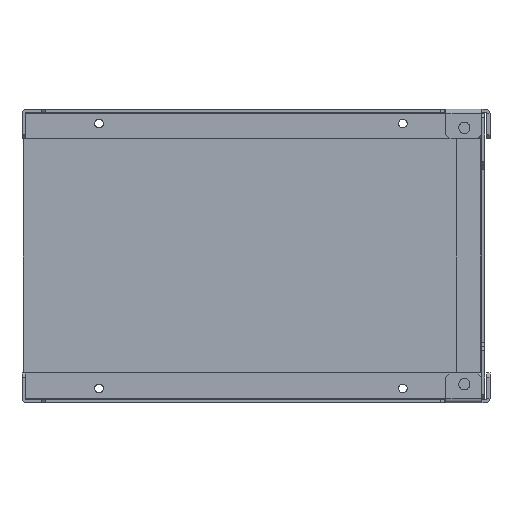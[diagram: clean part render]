
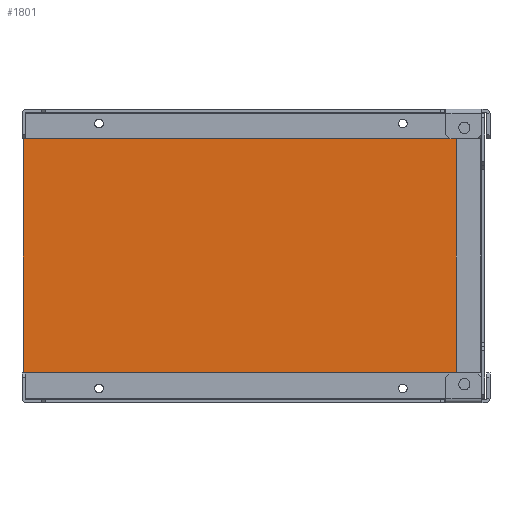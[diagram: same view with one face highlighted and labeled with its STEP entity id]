
A CAD part, front view. The second image highlights one B-rep face of the part: STEP entity #1801.
In plain terms, the highlighted planar face has unit normal (0, -1, 0) as drawn and (0, 0, 1) by its records, which use the part's own axes.
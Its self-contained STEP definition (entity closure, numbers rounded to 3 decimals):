
#366=CARTESIAN_POINT(' ',(71.25,-64.5,0.));
#367=VERTEX_POINT(' ',#366);
#381=CARTESIAN_POINT(' ',(74.,-64.5,0.));
#386=DIRECTION(' ',(0.,-0.,1.));
#391=DIRECTION(' ',(-1.,0.,0.));
#396=AXIS2_PLACEMENT_3D(' ',#381,#386,#391);
#401=CIRCLE('',#396,2.75);
#406=CARTESIAN_POINT(' ',(76.75,-64.5,0.));
#407=VERTEX_POINT(' ',#406);
#411=EDGE_CURVE(' ',#367,#407,#401,.T.);
#1146=CARTESIAN_POINT(' ',(74.,-64.5,0.));
#1151=DIRECTION(' ',(0.,0.,1.));
#1156=DIRECTION(' ',(1.,0.,0.));
#1161=AXIS2_PLACEMENT_3D(' ',#1146,#1151,#1156);
#1166=CIRCLE('',#1161,2.75);
#1171=EDGE_CURVE(' ',#407,#367,#1166,.T.);
#1196=DIRECTION(' ',(-0.,0.,1.));
#1201=CARTESIAN_POINT(' ',(-111.,-71.5,0.));
#1206=DIRECTION(' ',(1.,0.,0.));
#1211=AXIS2_PLACEMENT_3D(' ',#1201,#1196,#1206);
#1216=PLANE('NONE',#1211);
#1221=CARTESIAN_POINT(' ',(-111.,66.5,0.));
#1226=DIRECTION(' ',(0.,-1.,0.));
#1231=VECTOR(' ',#1226,1.);
#1236=LINE('',#1221,#1231);
#1241=CARTESIAN_POINT(' ',(-111.,66.5,0.));
#1242=VERTEX_POINT(' ',#1241);
#1246=CARTESIAN_POINT(' ',(-111.,-66.5,0.));
#1247=VERTEX_POINT(' ',#1246);
#1251=EDGE_CURVE(' ',#1242,#1247,#1236,.T.);
#1256=ORIENTED_EDGE(' ',*,*,#1251,.T.);
#1261=CARTESIAN_POINT(' ',(-111.,-66.5,0.));
#1266=DIRECTION(' ',(0.707,-0.707,0.));
#1271=VECTOR(' ',#1266,1.);
#1276=LINE('',#1261,#1271);
#1281=CARTESIAN_POINT(' ',(-106.,-71.5,0.));
#1282=VERTEX_POINT(' ',#1281);
#1286=EDGE_CURVE(' ',#1247,#1282,#1276,.T.);
#1291=ORIENTED_EDGE(' ',*,*,#1286,.T.);
#1296=CARTESIAN_POINT(' ',(-106.,-71.5,0.));
#1301=DIRECTION(' ',(1.,0.,0.));
#1306=VECTOR(' ',#1301,1.);
#1311=LINE('',#1296,#1306);
#1316=CARTESIAN_POINT(' ',(106.,-71.5,0.));
#1317=VERTEX_POINT(' ',#1316);
#1321=EDGE_CURVE(' ',#1282,#1317,#1311,.T.);
#1326=ORIENTED_EDGE(' ',*,*,#1321,.T.);
#1331=CARTESIAN_POINT(' ',(106.,-71.5,0.));
#1336=DIRECTION(' ',(0.707,0.707,0.));
#1341=VECTOR(' ',#1336,1.);
#1346=LINE('',#1331,#1341);
#1351=CARTESIAN_POINT(' ',(111.,-66.5,0.));
#1352=VERTEX_POINT(' ',#1351);
#1356=EDGE_CURVE(' ',#1317,#1352,#1346,.T.);
#1361=ORIENTED_EDGE(' ',*,*,#1356,.T.);
#1366=CARTESIAN_POINT(' ',(111.,-66.5,0.));
#1371=DIRECTION(' ',(0.,1.,0.));
#1376=VECTOR(' ',#1371,1.);
#1381=LINE('',#1366,#1376);
#1386=CARTESIAN_POINT(' ',(111.,66.5,0.));
#1387=VERTEX_POINT(' ',#1386);
#1391=EDGE_CURVE(' ',#1352,#1387,#1381,.T.);
#1396=ORIENTED_EDGE(' ',*,*,#1391,.T.);
#1401=CARTESIAN_POINT(' ',(111.,66.5,0.));
#1406=DIRECTION(' ',(-0.707,0.707,0.));
#1411=VECTOR(' ',#1406,1.);
#1416=LINE('',#1401,#1411);
#1421=CARTESIAN_POINT(' ',(106.,71.5,0.));
#1422=VERTEX_POINT(' ',#1421);
#1426=EDGE_CURVE(' ',#1387,#1422,#1416,.T.);
#1431=ORIENTED_EDGE(' ',*,*,#1426,.T.);
#1436=CARTESIAN_POINT(' ',(106.,71.5,0.));
#1441=DIRECTION(' ',(-1.,0.,0.));
#1446=VECTOR(' ',#1441,1.);
#1451=LINE('',#1436,#1446);
#1456=CARTESIAN_POINT(' ',(-106.,71.5,0.));
#1457=VERTEX_POINT(' ',#1456);
#1461=EDGE_CURVE(' ',#1422,#1457,#1451,.T.);
#1466=ORIENTED_EDGE(' ',*,*,#1461,.T.);
#1471=CARTESIAN_POINT(' ',(-106.,71.5,0.));
#1476=DIRECTION(' ',(-0.707,-0.707,0.));
#1481=VECTOR(' ',#1476,1.);
#1486=LINE('',#1471,#1481);
#1491=EDGE_CURVE(' ',#1457,#1242,#1486,.T.);
#1496=ORIENTED_EDGE(' ',*,*,#1491,.T.);
#1501=EDGE_LOOP(' ',(#1256,#1291,#1326,#1361,#1396,#1431,#1466,#1496));
#1506=FACE_OUTER_BOUND(' ',#1501,.T.);
#1511=ORIENTED_EDGE(' ',*,*,#1171,.F.);
#1516=ORIENTED_EDGE(' ',*,*,#411,.F.);
#1521=EDGE_LOOP(' ',(#1511,#1516));
#1526=FACE_BOUND(' ',#1521,.T.);
#1531=CARTESIAN_POINT(' ',(74.,64.5,0.));
#1536=DIRECTION(' ',(0.,0.,1.));
#1541=DIRECTION(' ',(1.,0.,0.));
#1546=AXIS2_PLACEMENT_3D(' ',#1531,#1536,#1541);
#1551=CIRCLE('',#1546,2.75);
#1556=CARTESIAN_POINT(' ',(76.75,64.5,0.));
#1557=VERTEX_POINT(' ',#1556);
#1561=CARTESIAN_POINT(' ',(71.25,64.5,0.));
#1562=VERTEX_POINT(' ',#1561);
#1566=EDGE_CURVE(' ',#1557,#1562,#1551,.T.);
#1571=ORIENTED_EDGE(' ',*,*,#1566,.F.);
#1576=CARTESIAN_POINT(' ',(74.,64.5,0.));
#1581=DIRECTION(' ',(0.,-0.,1.));
#1586=DIRECTION(' ',(-1.,0.,0.));
#1591=AXIS2_PLACEMENT_3D(' ',#1576,#1581,#1586);
#1596=CIRCLE('',#1591,2.75);
#1601=EDGE_CURVE(' ',#1562,#1557,#1596,.T.);
#1606=ORIENTED_EDGE(' ',*,*,#1601,.F.);
#1611=EDGE_LOOP(' ',(#1571,#1606));
#1616=FACE_BOUND(' ',#1611,.T.);
#1621=CARTESIAN_POINT(' ',(-74.,64.5,0.));
#1626=DIRECTION(' ',(0.,0.,1.));
#1631=DIRECTION(' ',(1.,0.,0.));
#1636=AXIS2_PLACEMENT_3D(' ',#1621,#1626,#1631);
#1641=CIRCLE('',#1636,2.75);
#1646=CARTESIAN_POINT(' ',(-71.25,64.5,0.));
#1647=VERTEX_POINT(' ',#1646);
#1651=CARTESIAN_POINT(' ',(-76.75,64.5,0.));
#1652=VERTEX_POINT(' ',#1651);
#1656=EDGE_CURVE(' ',#1647,#1652,#1641,.T.);
#1661=ORIENTED_EDGE(' ',*,*,#1656,.F.);
#1666=CARTESIAN_POINT(' ',(-74.,64.5,0.));
#1671=DIRECTION(' ',(0.,-0.,1.));
#1676=DIRECTION(' ',(-1.,0.,0.));
#1681=AXIS2_PLACEMENT_3D(' ',#1666,#1671,#1676);
#1686=CIRCLE('',#1681,2.75);
#1691=EDGE_CURVE(' ',#1652,#1647,#1686,.T.);
#1696=ORIENTED_EDGE(' ',*,*,#1691,.F.);
#1701=EDGE_LOOP(' ',(#1661,#1696));
#1706=FACE_BOUND(' ',#1701,.T.);
#1711=CARTESIAN_POINT(' ',(-74.,-64.5,0.));
#1716=DIRECTION(' ',(0.,0.,1.));
#1721=DIRECTION(' ',(1.,0.,0.));
#1726=AXIS2_PLACEMENT_3D(' ',#1711,#1716,#1721);
#1731=CIRCLE('',#1726,2.75);
#1736=CARTESIAN_POINT(' ',(-71.25,-64.5,0.));
#1737=VERTEX_POINT(' ',#1736);
#1741=CARTESIAN_POINT(' ',(-76.75,-64.5,0.));
#1742=VERTEX_POINT(' ',#1741);
#1746=EDGE_CURVE(' ',#1737,#1742,#1731,.T.);
#1751=ORIENTED_EDGE(' ',*,*,#1746,.F.);
#1756=CARTESIAN_POINT(' ',(-74.,-64.5,0.));
#1761=DIRECTION(' ',(0.,-0.,1.));
#1766=DIRECTION(' ',(-1.,0.,0.));
#1771=AXIS2_PLACEMENT_3D(' ',#1756,#1761,#1766);
#1776=CIRCLE('',#1771,2.75);
#1781=EDGE_CURVE(' ',#1742,#1737,#1776,.T.);
#1786=ORIENTED_EDGE(' ',*,*,#1781,.F.);
#1791=EDGE_LOOP(' ',(#1751,#1786));
#1796=FACE_BOUND(' ',#1791,.T.);
#1801=ADVANCED_FACE('NONE',(#1506,#1526,#1616,#1706,#1796),#1216,.T.);
